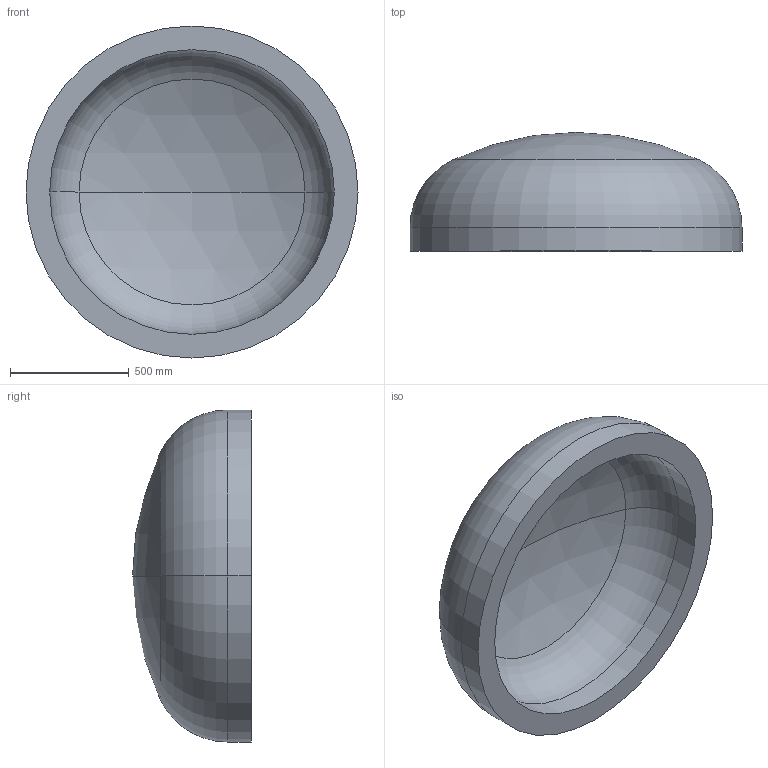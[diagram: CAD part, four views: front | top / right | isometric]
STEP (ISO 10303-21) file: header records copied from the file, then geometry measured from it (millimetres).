
FILE_DESCRIPTION (( 'STEP AP203' ), '1' );
FILE_NAME ('DIN 28013 Korbbogenform_-_Boden DIN 28013 - 1400 x 100 - I - s=100.step', '2016-07-01T10:29:02', ( '' ), ( '' ), 'SwSTEP 2.0', 'SolidWorks 2013', '' );
FILE_SCHEMA (( 'CONFIG_CONTROL_DESIGN' ));
Length unit declared in the file: millimetre
Products named in the file (1): DIN 28013 Korbbogenform_-_Boden DIN 28013 - 1400 x 100 - I - s=100
Bounding box: 1400 x 500.98 x 1400 mm (x, y, z)
Volume: 235533229.3 mm3; surface area: 5140014.6 mm2
Topology: 1 solids, 1 shells, 13 faces, 24 edges, 14 vertices
Faces by surface type: torus 4, cylinder 4, sphere 4, plane 1
Entity records: 407 total; most frequent: DIRECTION 72, CARTESIAN_POINT 52, ORIENTED_EDGE 48, AXIS2_PLACEMENT_3D 34, EDGE_CURVE 24, CIRCLE 20, VERTEX_POINT 14, EDGE_LOOP 14
